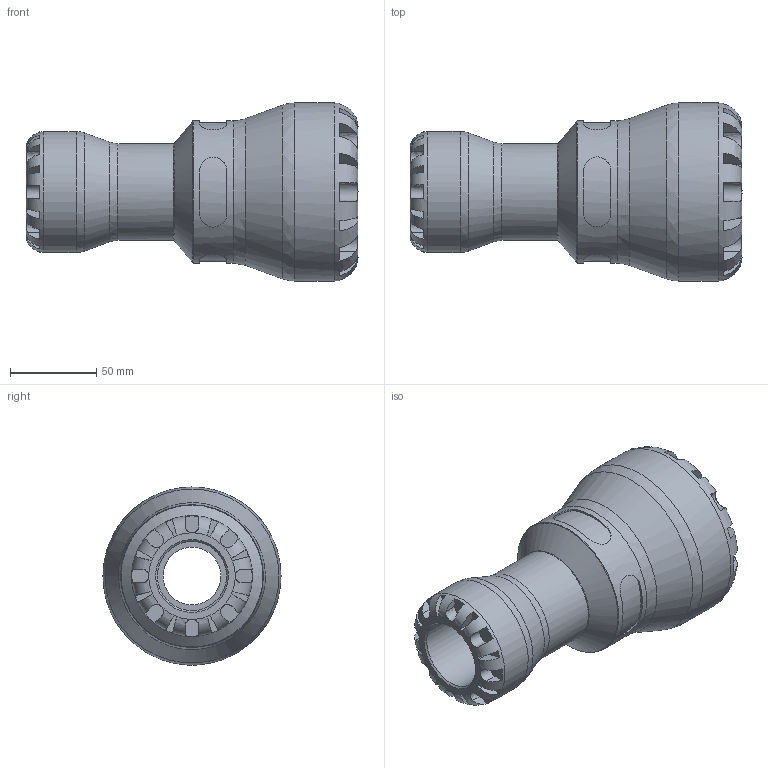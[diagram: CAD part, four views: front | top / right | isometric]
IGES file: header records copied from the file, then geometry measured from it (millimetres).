
Global section: file name: 151100063040; native system: Autodesk Inventor 2019; preprocessor: unknown; author: KIM; date: 20231017.194532; units: millimetre
Bounding box: 192 x 103 x 102.94 mm (x, y, z)
Volume: 519598.4 mm3; surface area: 92903.4 mm2
Topology: 1 solids, 1 shells, 172 faces, 465 edges, 300 vertices
Faces by surface type: bspline 172
